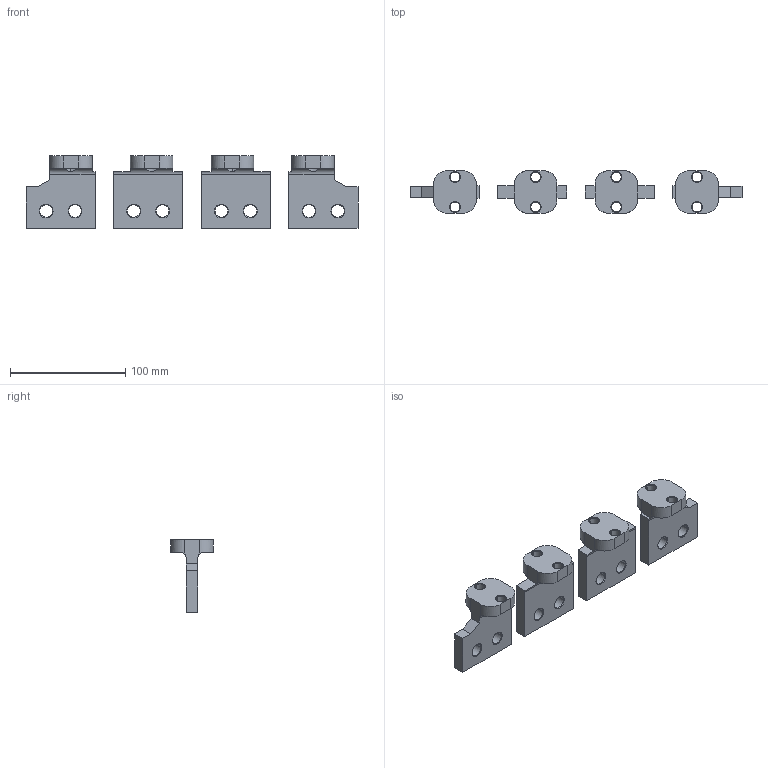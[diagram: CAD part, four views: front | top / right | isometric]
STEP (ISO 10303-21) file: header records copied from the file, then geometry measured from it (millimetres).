
FILE_DESCRIPTION (( 'STEP AP203' ), '1' );
FILE_NAME ('Âûâîäû ãîðèç. âåðõíèå äëÿ ñòàöèîíàðíîãî íà 800-1000À 4P.STEP', '2024-06-25T08:35:22', ( '' ), ( '' ), 'SwSTEP 2.0', 'SolidWorks 2018', '' );
FILE_SCHEMA (( 'CONFIG_CONTROL_DESIGN' ));
Length unit declared in the file: millimetre
Products named in the file (1): Âûâîäû ãîðèç. âåðõíèå äëÿ ñòàöèîíàðíîãî íà 800-1000À 4P
Bounding box: 288 x 37 x 63 mm (x, y, z)
Volume: 160831.4 mm3; surface area: 46984.8 mm2
Topology: 4 solids, 4 shells, 190 faces, 482 edges, 300 vertices
Faces by surface type: cylinder 68, cone 64, plane 58
Entity records: 6205 total; most frequent: CARTESIAN_POINT 1385, DIRECTION 1036, ORIENTED_EDGE 964, EDGE_CURVE 482, AXIS2_PLACEMENT_3D 391, VERTEX_POINT 300, VECTOR 254, LINE 254
